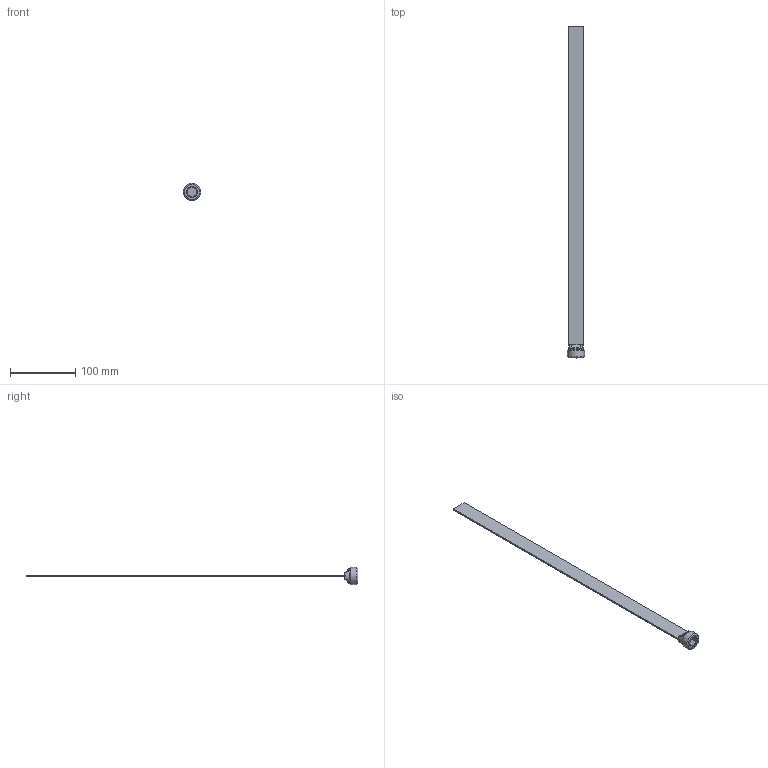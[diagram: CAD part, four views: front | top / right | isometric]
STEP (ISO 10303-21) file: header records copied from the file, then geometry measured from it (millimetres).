
FILE_DESCRIPTION(/* description */ (''),/* implementation_level */ '2;1');
FILE_NAME(/* name */ 'C:/Users/drich/Desktop/SB34X20 v2.step',/* time_stamp */ '2020-01-14T10:06:26-06:00',/* author */ (''),/* organization */ (''),/* preprocessor_version */ 'ST-DEVELOPER v18',/* originating_system */ 'Autodesk Translation Framework v8.12.0.6',/* authorisation */ '');
FILE_SCHEMA (('AUTOMOTIVE_DESIGN { 1 0 10303 214 3 1 1 }'));
Length unit declared in the file: inch
Products named in the file (1): SB34X20
Bounding box: 26.3 x 508 x 26.3 mm (x, y, z)
Volume: 34091 mm3; surface area: 28263.5 mm2
Topology: 1 solids, 1 shells, 37 faces, 95 edges, 62 vertices
Faces by surface type: plane 20, cylinder 6, bspline 6, cone 3, torus 2
Full cylindrical faces by diameter (mm): 22.504 x1, 26.299 x1
Entity records: 1454 total; most frequent: CARTESIAN_POINT 560, ORIENTED_EDGE 190, DIRECTION 159, EDGE_CURVE 95, VERTEX_POINT 62, AXIS2_PLACEMENT_3D 58, LINE 43, VECTOR 43
